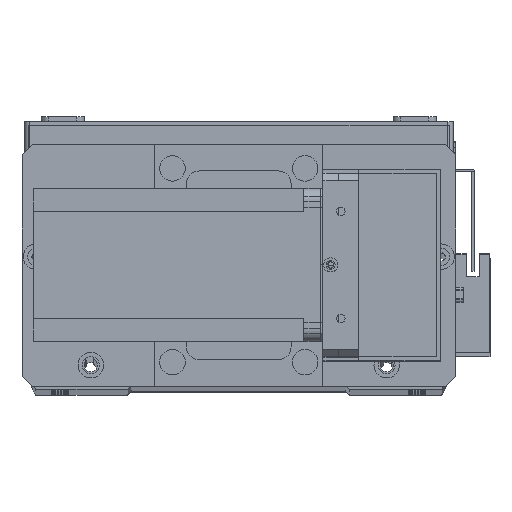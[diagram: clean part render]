
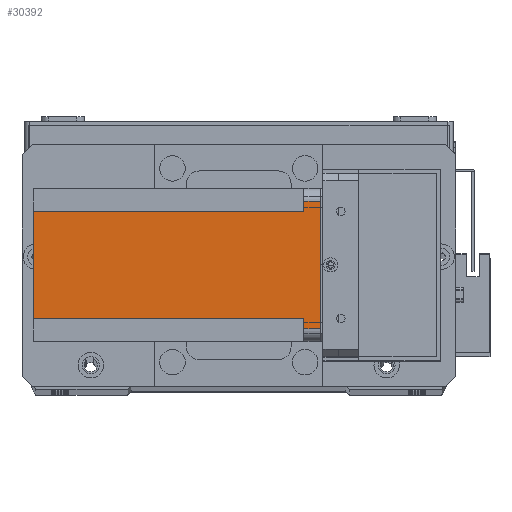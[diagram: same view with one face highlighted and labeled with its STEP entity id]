
A CAD part, top view. The second image highlights one B-rep face of the part: STEP entity #30392.
In plain terms, the highlighted planar face has unit normal (0, 0, 1) as drawn and (-1, 0, 0) by its records, which use the part's own axes.
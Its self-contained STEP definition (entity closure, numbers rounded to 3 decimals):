
#246 = VERTEX_POINT ( 'NONE', #21567 ) ;
#593 = VERTEX_POINT ( 'NONE', #30772 ) ;
#1242 = ORIENTED_EDGE ( 'NONE', *, *, #3549, .F. ) ;
#2814 = CARTESIAN_POINT ( 'NONE',  ( 0., 0., 0. ) ) ;
#2943 = EDGE_CURVE ( 'NONE', #16335, #18798, #30699, .T. ) ;
#3040 = DIRECTION ( 'NONE',  ( 0., 1., 0. ) ) ;
#3304 = EDGE_CURVE ( 'NONE', #20753, #15456, #23702, .T. ) ;
#3309 = EDGE_CURVE ( 'NONE', #20753, #18798, #20290, .T. ) ;
#3436 = EDGE_CURVE ( 'NONE', #16335, #7460, #26142, .T. ) ;
#3441 = EDGE_CURVE ( 'NONE', #24147, #7460, #25865, .T. ) ;
#3483 = EDGE_CURVE ( 'NONE', #593, #24147, #24293, .T. ) ;
#3544 = EDGE_CURVE ( 'NONE', #593, #246, #29913, .T. ) ;
#3549 = EDGE_CURVE ( 'NONE', #15456, #246, #29419, .T. ) ;
#4238 = DIRECTION ( 'NONE',  ( 0., -1., 0. ) ) ;
#4806 = ORIENTED_EDGE ( 'NONE', *, *, #3436, .T. ) ;
#4837 = EDGE_LOOP ( 'NONE', ( #7836, #9281, #6626, #4806, #10992, #18887, #12381, #1242 ) ) ;
#5659 = DIRECTION ( 'NONE',  ( 0., 0., -1. ) ) ;
#6468 = AXIS2_PLACEMENT_3D ( 'NONE', #25662, #11265, #28053 ) ;
#6592 = DIRECTION ( 'NONE',  ( 0., 0., 1. ) ) ;
#6626 = ORIENTED_EDGE ( 'NONE', *, *, #2943, .F. ) ;
#6960 = CARTESIAN_POINT ( 'NONE',  ( 0., 5., -112.5 ) ) ;
#6991 = CARTESIAN_POINT ( 'NONE',  ( 0., 0., -6.5 ) ) ;
#7029 = DIRECTION ( 'NONE',  ( 0., 1., 0. ) ) ;
#7385 = CARTESIAN_POINT ( 'NONE',  ( 0., 55., -112.5 ) ) ;
#7460 = VERTEX_POINT ( 'NONE', #25873 ) ;
#7588 = CARTESIAN_POINT ( 'NONE',  ( 0., 60., -6.5 ) ) ;
#7836 = ORIENTED_EDGE ( 'NONE', *, *, #3304, .F. ) ;
#8253 = CARTESIAN_POINT ( 'NONE',  ( 0., 9., -6.5 ) ) ;
#8855 = PLANE ( 'NONE',  #6468 ) ;
#9281 = ORIENTED_EDGE ( 'NONE', *, *, #3309, .T. ) ;
#9990 = CARTESIAN_POINT ( 'NONE',  ( 0., 55., 0. ) ) ;
#10992 = ORIENTED_EDGE ( 'NONE', *, *, #3441, .F. ) ;
#11265 = DIRECTION ( 'NONE',  ( -1., 0., 0. ) ) ;
#12381 = ORIENTED_EDGE ( 'NONE', *, *, #3544, .T. ) ;
#15456 = VERTEX_POINT ( 'NONE', #8253 ) ;
#15674 = CARTESIAN_POINT ( 'NONE',  ( 0., 5., -6.5 ) ) ;
#16335 = VERTEX_POINT ( 'NONE', #9990 ) ;
#17931 = CARTESIAN_POINT ( 'NONE',  ( 0., 51., -6.5 ) ) ;
#18798 = VERTEX_POINT ( 'NONE', #27984 ) ;
#18887 = ORIENTED_EDGE ( 'NONE', *, *, #3483, .F. ) ;
#20290 = LINE ( 'NONE', #6960, #22853 ) ;
#20753 = VERTEX_POINT ( 'NONE', #15674 ) ;
#20813 = VECTOR ( 'NONE', #4238, 1000. ) ;
#21567 = CARTESIAN_POINT ( 'NONE',  ( 0., 9., -112.5 ) ) ;
#22853 = VECTOR ( 'NONE', #6592, 1000. ) ;
#23338 = VECTOR ( 'NONE', #7029, 1000. ) ;
#23702 = LINE ( 'NONE', #6991, #23338 ) ;
#24147 = VERTEX_POINT ( 'NONE', #17931 ) ;
#24293 = LINE ( 'NONE', #29599, #30271 ) ;
#25094 = DIRECTION ( 'NONE',  ( 0., 0., -1. ) ) ;
#25423 = CARTESIAN_POINT ( 'NONE',  ( 0., 9., -112.5 ) ) ;
#25495 = VECTOR ( 'NONE', #5659, 1000. ) ;
#25662 = CARTESIAN_POINT ( 'NONE',  ( 0., 0., -112.5 ) ) ;
#25865 = LINE ( 'NONE', #7588, #26119 ) ;
#25873 = CARTESIAN_POINT ( 'NONE',  ( 0., 55., -6.5 ) ) ;
#26119 = VECTOR ( 'NONE', #3040, 1000. ) ;
#26142 = LINE ( 'NONE', #7385, #25495 ) ;
#26530 = CARTESIAN_POINT ( 'NONE',  ( 0., 0., -112.5 ) ) ;
#27034 = DIRECTION ( 'NONE',  ( 0., -1., 0. ) ) ;
#27660 = VECTOR ( 'NONE', #27034, 1000. ) ;
#27984 = CARTESIAN_POINT ( 'NONE',  ( 0., 5., 0. ) ) ;
#28053 = DIRECTION ( 'NONE',  ( 0., -1., 0. ) ) ;
#28983 = FACE_OUTER_BOUND ( 'NONE', #4837, .T. ) ;
#29351 = DIRECTION ( 'NONE',  ( 0., 0., 1. ) ) ;
#29419 = LINE ( 'NONE', #25423, #30215 ) ;
#29599 = CARTESIAN_POINT ( 'NONE',  ( 0., 51., -112.5 ) ) ;
#29913 = LINE ( 'NONE', #26530, #27660 ) ;
#30215 = VECTOR ( 'NONE', #25094, 1000. ) ;
#30271 = VECTOR ( 'NONE', #29351, 1000. ) ;
#30392 = ADVANCED_FACE ( 'NONE', ( #28983 ), #8855, .T. ) ;
#30699 = LINE ( 'NONE', #2814, #20813 ) ;
#30772 = CARTESIAN_POINT ( 'NONE',  ( 0., 51., -112.5 ) ) ;
